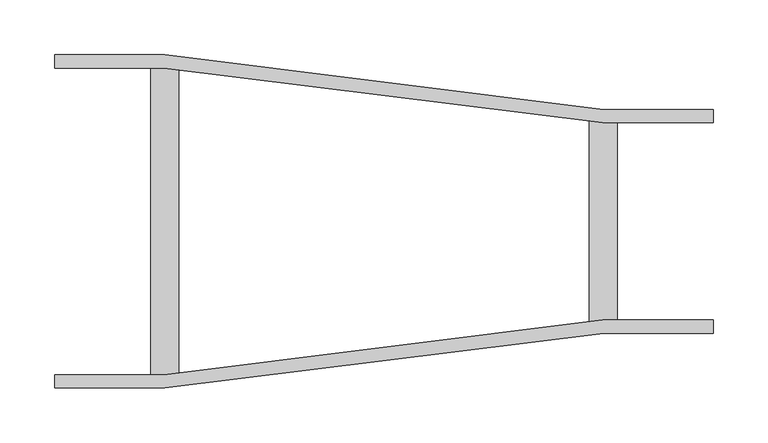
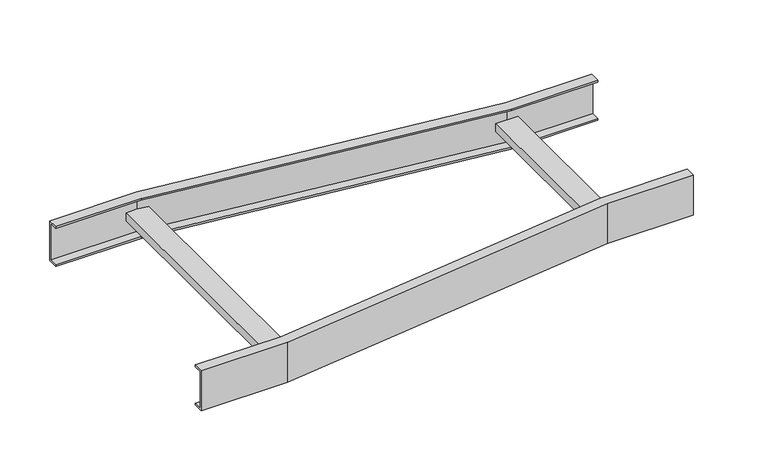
"""IFC4 building model written with IfcOpenShell, lengths in millimetres: cable carrier fitting geometry, BAKS_LD_CONN_Univarsal connector reduction_LLUS : LLUSP_H45."""

from ifc_helpers import new_model, si_unit, frame, origin, place, context, project, spatial, polyline, outline, extrude, faceted_brep, source, transform, mapped, element, save


def cable_carrier_fitting_202d3e5f(model_context):
    return source(origin(), model_context, "Body", "SolidModel", [
        faceted_brep([(0.0, 140.0, -24.5), (0.0, 140.0, -22.5), (0.0, 150.0, -22.5), (0.0, 150.0, 22.5), (0.0, 140.0, 22.5), (0.0, 140.0, 24.5), (0.0, 152.0, 24.5), (0.0, 152.0, -24.5), (600.0, 90.0, -24.5), (600.0, 102.0, -24.5), (600.0, 102.0, 24.5), (600.0, 90.0, 24.5), (600.0, 90.0, 22.5), (600.0, 100.0, 22.5), (600.0, 100.0, -22.5), (600.0, 90.0, -22.5), (112.7, 148.4125, -5.0), (112.7, 148.4125, 5.0), (112.7, -148.4125, 5.0), (112.7, -148.4125, -5.0), (87.3, -150.0, -5.0), (87.3, 150.0, -5.0), (100.0, 150.0, -5.0), (100.0, -150.0, -5.0), (87.3, -150.0, 5.0), (87.3, 150.0, 5.0), (100.0, -150.0, 5.0), (100.0, 150.0, 5.0), (0.0, -140.0, 24.5), (0.0, -140.0, 22.5), (0.0, -150.0, 22.5), (0.0, -150.0, -22.5), (0.0, -140.0, -22.5), (0.0, -140.0, -24.5), (0.0, -152.0, -24.5), (0.0, -152.0, 24.5), (600.0, -90.0, 24.5), (600.0, -102.0, 24.5), (600.0, -102.0, -24.5), (600.0, -90.0, -24.5), (600.0, -90.0, -22.5), (600.0, -100.0, -22.5), (600.0, -100.0, 22.5), (600.0, -90.0, 22.5), (99.3774225, 140.0, -24.5), (99.3774225, 140.0, -22.5), (499.3774225, 90.0, -22.5), (500.0, 100.0, -22.5), (100.0, 150.0, -22.5), (100.0, 150.0, 22.5), (500.0, 100.0, 22.5), (499.3774225, 90.0, 22.5), (99.3774225, 140.0, 22.5), (99.3774225, 140.0, 24.5), (499.3774225, 90.0, 24.5), (500.1245155, 102.0, 24.5), (100.1245155, 152.0, 24.5), (100.1245155, 152.0, -24.5), (500.1245155, 102.0, -24.5), (499.3774225, 90.0, -24.5), (99.3774225, -140.0, 24.5), (99.3774225, -140.0, 22.5), (499.3774225, -90.0, 22.5), (500.0, -100.0, 22.5), (100.0, -150.0, 22.5), (100.0, -150.0, -22.5), (500.0, -100.0, -22.5), (499.3774225, -90.0, -22.5), (99.3774225, -140.0, -22.5), (99.3774225, -140.0, -24.5), (499.3774225, -90.0, -24.5), (500.1245155, -102.0, -24.5), (100.1245155, -152.0, -24.5), (100.1245155, -152.0, 24.5), (500.1245155, -102.0, 24.5), (499.3774225, -90.0, 24.5)], [[[0, 1, 2, 3, 4, 5, 6, 7]], [[8, 9, 10, 11, 12, 13, 14, 15]], [[16, 17, 18, 19]], [[20, 21, 22, 16, 19, 23]], [[21, 20, 24, 25]], [[25, 24, 26, 18, 17, 27]], [[28, 29, 30, 31, 32, 33, 34, 35]], [[36, 37, 38, 39, 40, 41, 42, 43]], [[1, 0, 44, 45]], [[2, 1, 45, 46, 15, 14, 47, 48]], [[3, 2, 48, 22, 21, 25, 27, 49]], [[4, 3, 49, 50, 13, 12, 51, 52]], [[5, 4, 52, 53]], [[6, 5, 53, 54, 11, 10, 55, 56]], [[7, 6, 56, 57]], [[0, 7, 57, 58, 9, 8, 59, 44]], [[45, 44, 59, 46]], [[48, 47, 50, 49, 27, 17, 16, 22]], [[52, 51, 54, 53]], [[56, 55, 58, 57]], [[8, 15, 46, 59]], [[14, 13, 50, 47]], [[12, 11, 54, 51]], [[10, 9, 58, 55]], [[29, 28, 60, 61]], [[30, 29, 61, 62, 43, 42, 63, 64]], [[31, 30, 64, 26, 24, 20, 23, 65]], [[32, 31, 65, 66, 41, 40, 67, 68]], [[33, 32, 68, 69]], [[34, 33, 69, 70, 39, 38, 71, 72]], [[35, 34, 72, 73]], [[28, 35, 73, 74, 37, 36, 75, 60]], [[61, 60, 75, 62]], [[64, 63, 66, 65, 23, 19, 18, 26]], [[68, 67, 70, 69]], [[72, 71, 74, 73]], [[36, 43, 62, 75]], [[42, 41, 66, 63]], [[40, 39, 70, 67]], [[38, 37, 74, 71]]]),
        extrude(outline(polyline([(487.3, 100.0), (512.7, 100.0), (512.7, -100.0), (487.3, -100.0), (487.3, 100.0)])), frame((0.0, 0.0, -5.0), z_axis=(0.0, 0.0, 1.0), x_axis=(1.0, 0.0, 0.0)), (0.0, 0.0, 1.0), 10.0),
    ])


if __name__ == "__main__":
    model = new_model("IFC4")
    model_context = context("Model", 3, world=origin())
    ifc_project = project(units=[si_unit("LENGTHUNIT", "METRE", prefix="MILLI")], contexts=[model_context])
    site = spatial("IfcSite", under=ifc_project)
    building = spatial("IfcBuilding", under=site)
    placement = place(None, origin())
    cable_carrier_fitting_shape = cable_carrier_fitting_202d3e5f(model_context)
    element("IfcCableCarrierFitting", 1, ObjectType="BAKS_LD_CONN_Univarsal connector reduction_LLUS : LLUSP_H45", at=placement, inside=building, context=model_context, shape_type="MappedRepresentation", body=[
        mapped(cable_carrier_fitting_shape, transform((0.0, 0.0, 0.0), x_axis=(1.0, 0.0, 0.0), y_axis=(0.0, 1.0, 0.0), z_axis=(0.0, 0.0, 1.0))),
    ])
    save(model, "model.ifc")
